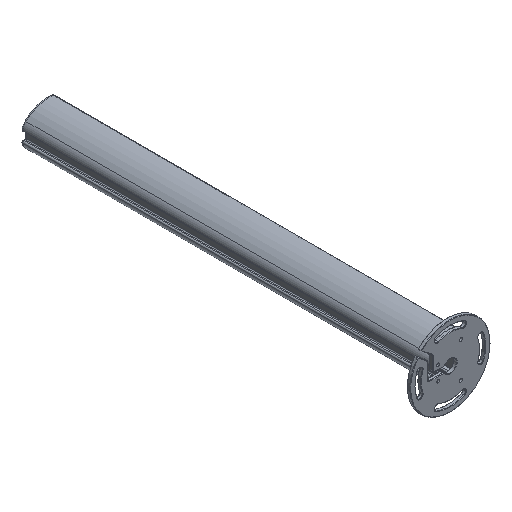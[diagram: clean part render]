
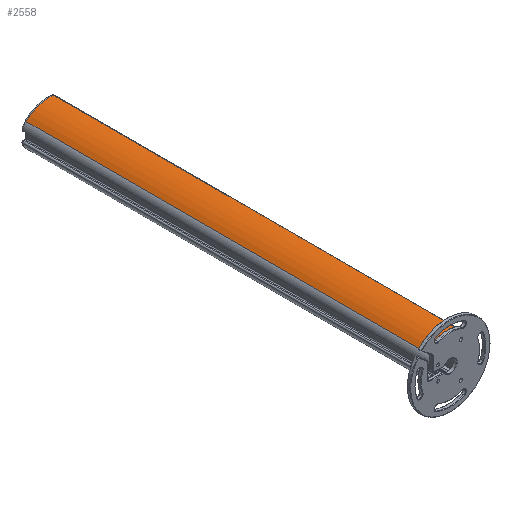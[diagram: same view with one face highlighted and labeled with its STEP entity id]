
A CAD part, isometric view. The second image highlights one B-rep face of the part: STEP entity #2558.
In plain terms, the highlighted cylindrical face has radius 79.059 mm (diameter 158.118 mm), a partial arc.
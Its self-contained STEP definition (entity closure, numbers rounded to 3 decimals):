
#72=CARTESIAN_POINT('',(24.886,-485.,-29.268));
#73=DIRECTION('',(0.,1.,0.));
#74=DIRECTION('',(-0.694,0.,0.72));
#75=AXIS2_PLACEMENT_3D('',#72,#73,#74);
#646=DIRECTION('',(0.,1.,0.));
#647=VECTOR('',#646,970.);
#648=CARTESIAN_POINT('',(35.448,-485.,49.083));
#649=LINE('',#648,#647);
#650=DIRECTION('',(0.,1.,0.));
#651=VECTOR('',#650,970.);
#652=CARTESIAN_POINT('',(-30.018,-485.,27.617));
#653=LINE('',#652,#651);
#1015=CARTESIAN_POINT('',(24.886,485.,-29.268));
#1016=DIRECTION('',(0.,1.,0.));
#1017=DIRECTION('',(-0.694,0.,0.72));
#1018=AXIS2_PLACEMENT_3D('',#1015,#1016,#1017);
#1116=CARTESIAN_POINT('',(-30.018,-485.,27.617));
#1117=VERTEX_POINT('',#1116);
#1118=CARTESIAN_POINT('',(35.448,-485.,49.083));
#1119=VERTEX_POINT('',#1118);
#1282=CARTESIAN_POINT('',(-30.018,485.,27.617));
#1283=VERTEX_POINT('',#1282);
#1284=CARTESIAN_POINT('',(35.448,485.,49.083));
#1285=VERTEX_POINT('',#1284);
#2545=CARTESIAN_POINT('',(24.886,-485.,-29.268));
#2546=DIRECTION('',(0.,1.,0.));
#2547=DIRECTION('',(1.,0.,0.));
#2548=AXIS2_PLACEMENT_3D('',#2545,#2546,#2547);
#2549=CYLINDRICAL_SURFACE('',#2548,79.059);
#2550=ORIENTED_EDGE('',*,*,#1453,.F.);
#2552=ORIENTED_EDGE('',*,*,#2551,.T.);
#2554=ORIENTED_EDGE('',*,*,#2553,.T.);
#2555=ORIENTED_EDGE('',*,*,#2537,.F.);
#2556=EDGE_LOOP('',(#2550,#2552,#2554,#2555));
#2557=FACE_OUTER_BOUND('',#2556,.F.);
#2558=ADVANCED_FACE('',(#2557),#2549,.T.);
#76=CIRCLE('',#75,79.059);
#1019=CIRCLE('',#1018,79.059);
#1453=EDGE_CURVE('',#1117,#1119,#76,.T.);
#2537=EDGE_CURVE('',#1119,#1285,#649,.T.);
#2551=EDGE_CURVE('',#1117,#1283,#653,.T.);
#2553=EDGE_CURVE('',#1283,#1285,#1019,.T.);
